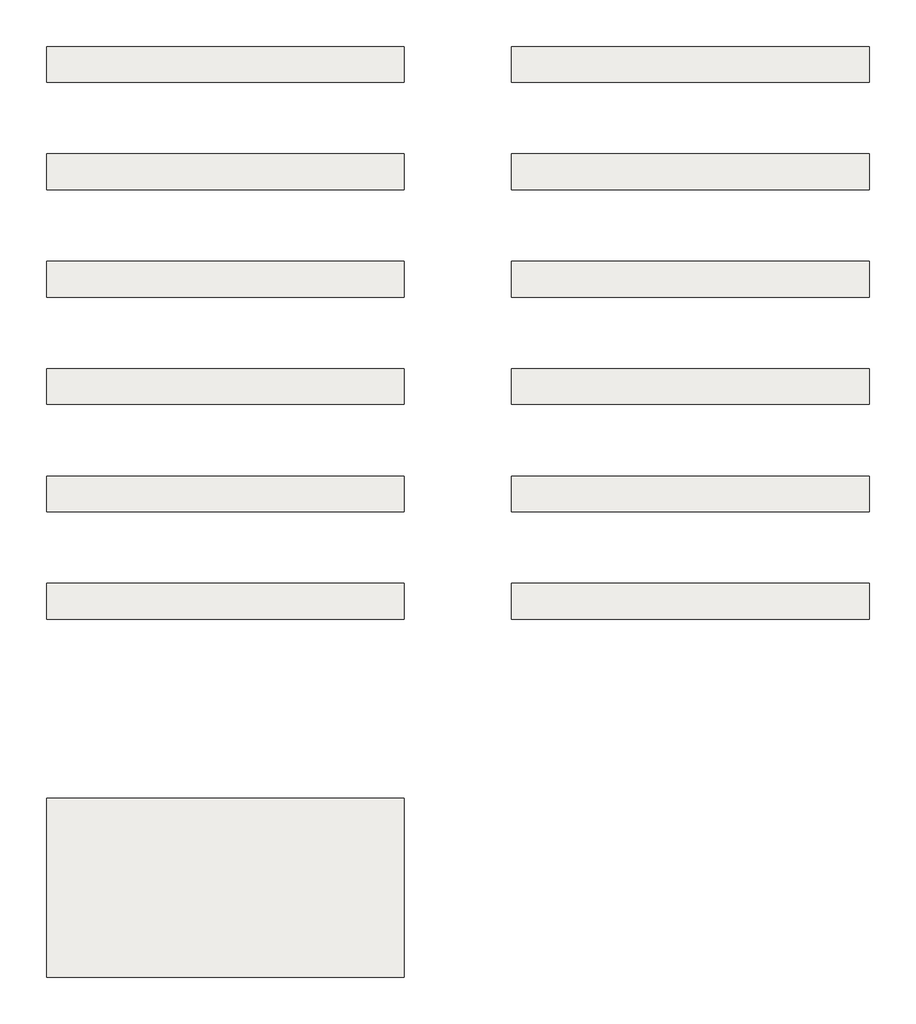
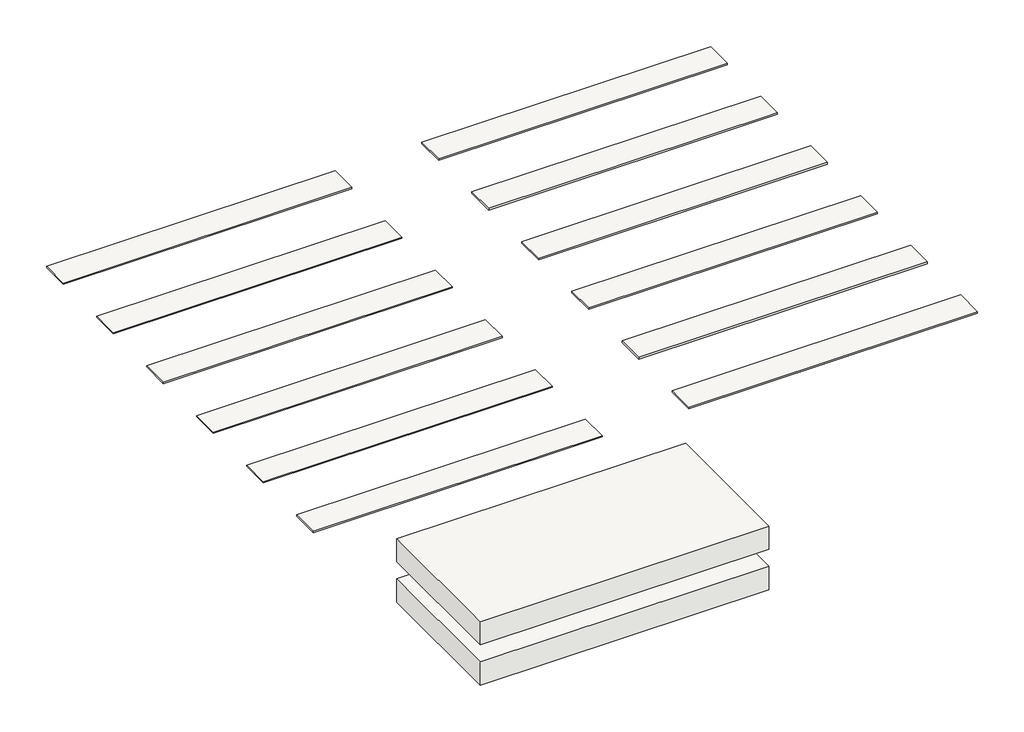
# One storey: 14 coverings.
"""IFC4 building model written with IfcOpenShell, lengths in millimetres."""

from ifc_helpers import new_model, si_unit, frame, origin, place, context, project, spatial, polyline, outline, extrude, element, save

model = new_model("IFC4")

# Units and contexts
model_context = context("Model", 3, world=origin())
ifc_project = project(units=[si_unit("LENGTHUNIT", "METRE", prefix="MILLI")], contexts=[model_context])

# Site, building, storey
site = spatial("IfcSite", under=ifc_project)
building = spatial("IfcBuilding", under=site)
storey = spatial("IfcBuildingStorey", under=building, Name="Sika® Ucrete® 210 CL en sustrato", Elevation=0.0)

# Coverings
placement = place(None, origin())
element("IfcCovering", 1, ObjectType="Sika® Ucrete® 210 CL 6 mm en sustrato", at=placement, inside=storey, context=model_context, shape_type="SweptSolid", body=[
    extrude(outline(polyline([(-2124.6599593, 7606.5727775), (-2124.6599593, 7106.5727775), (-3124.6599593, 7106.5727775), (-3124.6599593, 7606.5727775), (-2124.6599593, 7606.5727775)])), frame((0.0, 0.0, 44.0), z_axis=(0.0, 0.0, 1.0), x_axis=(1.0, 0.0, 0.0)), (0.0, 0.0, 1.0), 86.0),
])
element("IfcCovering", 2, ObjectType="Sika® Ucrete® 210 CL 4 mm (Beige)", at=placement, inside=storey, context=model_context, shape_type="SweptSolid", body=[
    extrude(outline(polyline([(-2124.6599593, 8207.6816614), (-2124.6599593, 8107.6816614), (-3124.6599593, 8107.6816614), (-3124.6599593, 8207.6816614), (-2124.6599593, 8207.6816614)])), frame((0.0, 0.0, -4.0), z_axis=(0.0, 0.0, 1.0), x_axis=(1.0, 0.0, 0.0)), (0.0, 0.0, 1.0), 4.0),
])
element("IfcCovering", 3, ObjectType="Sika® Ucrete® 210 CL 4 mm (Pebble Grey)", at=placement, inside=storey, context=model_context, shape_type="SweptSolid", body=[
    extrude(outline(polyline([(-2124.6599593, 8507.6816614), (-2124.6599593, 8407.6816614), (-3124.6599593, 8407.6816614), (-3124.6599593, 8507.6816614), (-2124.6599593, 8507.6816614)])), frame((0.0, 0.0, -4.0), z_axis=(0.0, 0.0, 1.0), x_axis=(1.0, 0.0, 0.0)), (0.0, 0.0, 1.0), 4.0),
])
element("IfcCovering", 4, ObjectType="Sika® Ucrete® 210 CL 4 mm (Traffic Grey)", at=placement, inside=storey, context=model_context, shape_type="SweptSolid", body=[
    extrude(outline(polyline([(-2124.6599593, 8807.6816614), (-2124.6599593, 8707.6816614), (-3124.6599593, 8707.6816614), (-3124.6599593, 8807.6816614), (-2124.6599593, 8807.6816614)])), frame((0.0, 0.0, -4.0), z_axis=(0.0, 0.0, 1.0), x_axis=(1.0, 0.0, 0.0)), (0.0, 0.0, 1.0), 4.0),
])
element("IfcCovering", 5, ObjectType="Sika® Ucrete® 210 CL 4 mm (Grass Green)", at=placement, inside=storey, context=model_context, shape_type="SweptSolid", body=[
    extrude(outline(polyline([(-2124.6599593, 9107.6816614), (-2124.6599593, 9007.6816614), (-3124.6599593, 9007.6816614), (-3124.6599593, 9107.6816614), (-2124.6599593, 9107.6816614)])), frame((0.0, 0.0, -4.0), z_axis=(0.0, 0.0, 1.0), x_axis=(1.0, 0.0, 0.0)), (0.0, 0.0, 1.0), 4.0),
])
element("IfcCovering", 6, ObjectType="Sika® Ucrete® 210 CL 4 mm (Navy Blue)", at=placement, inside=storey, context=model_context, shape_type="SweptSolid", body=[
    extrude(outline(polyline([(-2124.6599593, 9707.6816614), (-2124.6599593, 9607.6816614), (-3124.6599593, 9607.6816614), (-3124.6599593, 9707.6816614), (-2124.6599593, 9707.6816614)])), frame((0.0, 0.0, -4.0), z_axis=(0.0, 0.0, 1.0), x_axis=(1.0, 0.0, 0.0)), (0.0, 0.0, 1.0), 4.0),
])
element("IfcCovering", 7, ObjectType="Sika® Ucrete® 210 CL 4 mm (Red)", at=placement, inside=storey, context=model_context, shape_type="SweptSolid", body=[
    extrude(outline(polyline([(-2124.6599593, 9407.6816614), (-2124.6599593, 9307.6816614), (-3124.6599593, 9307.6816614), (-3124.6599593, 9407.6816614), (-2124.6599593, 9407.6816614)])), frame((0.0, 0.0, -4.0), z_axis=(0.0, 0.0, 1.0), x_axis=(1.0, 0.0, 0.0)), (0.0, 0.0, 1.0), 4.0),
])
element("IfcCovering", 8, ObjectType="Sika® Ucrete® 210 CL 4 mm en sustrato", at=placement, inside=storey, context=model_context, shape_type="SweptSolid", body=[
    extrude(outline(polyline([(-2124.6599593, 7606.5727775), (-2124.6599593, 7106.5727775), (-3124.6599593, 7106.5727775), (-3124.6599593, 7606.5727775), (-2124.6599593, 7606.5727775)])), frame((0.0, 0.0, 192.623235), z_axis=(0.0, 0.0, 1.0), x_axis=(1.0, 0.0, 0.0)), (0.0, 0.0, 1.0), 84.0),
])
element("IfcCovering", 9, ObjectType="Sika® Ucrete® 210 CL 6 mm (Beige)", at=placement, inside=storey, context=model_context, shape_type="SweptSolid", body=[
    extrude(outline(polyline([(-824.6599593, 8207.6816614), (-824.6599593, 8107.6816614), (-1824.6599593, 8107.6816614), (-1824.6599593, 8207.6816614), (-824.6599593, 8207.6816614)])), frame((0.0, 0.0, -6.0), z_axis=(0.0, 0.0, 1.0), x_axis=(1.0, 0.0, 0.0)), (0.0, 0.0, 1.0), 6.0),
])
element("IfcCovering", 10, ObjectType="Sika® Ucrete® 210 CL 6 mm (Pebble Grey)", at=placement, inside=storey, context=model_context, shape_type="SweptSolid", body=[
    extrude(outline(polyline([(-824.6599593, 8507.6816614), (-824.6599593, 8407.6816614), (-1824.6599593, 8407.6816614), (-1824.6599593, 8507.6816614), (-824.6599593, 8507.6816614)])), frame((0.0, 0.0, -6.0), z_axis=(0.0, 0.0, 1.0), x_axis=(1.0, 0.0, 0.0)), (0.0, 0.0, 1.0), 6.0),
])
element("IfcCovering", 11, ObjectType="Sika® Ucrete® 210 CL 6 mm (Traffic Grey)", at=placement, inside=storey, context=model_context, shape_type="SweptSolid", body=[
    extrude(outline(polyline([(-824.6599593, 8807.6816614), (-824.6599593, 8707.6816614), (-1824.6599593, 8707.6816614), (-1824.6599593, 8807.6816614), (-824.6599593, 8807.6816614)])), frame((0.0, 0.0, -6.0), z_axis=(0.0, 0.0, 1.0), x_axis=(1.0, 0.0, 0.0)), (0.0, 0.0, 1.0), 6.0),
])
element("IfcCovering", 12, ObjectType="Sika® Ucrete® 210 CL 6 mm (Grass Green)", at=placement, inside=storey, context=model_context, shape_type="SweptSolid", body=[
    extrude(outline(polyline([(-824.6599593, 9107.6816614), (-824.6599593, 9007.6816614), (-1824.6599593, 9007.6816614), (-1824.6599593, 9107.6816614), (-824.6599593, 9107.6816614)])), frame((0.0, 0.0, -6.0), z_axis=(0.0, 0.0, 1.0), x_axis=(1.0, 0.0, 0.0)), (0.0, 0.0, 1.0), 6.0),
])
element("IfcCovering", 13, ObjectType="Sika® Ucrete® 210 CL 6 mm (Navy Blue)", at=placement, inside=storey, context=model_context, shape_type="SweptSolid", body=[
    extrude(outline(polyline([(-824.6599593, 9707.6816614), (-824.6599593, 9607.6816614), (-1824.6599593, 9607.6816614), (-1824.6599593, 9707.6816614), (-824.6599593, 9707.6816614)])), frame((0.0, 0.0, -6.0), z_axis=(0.0, 0.0, 1.0), x_axis=(1.0, 0.0, 0.0)), (0.0, 0.0, 1.0), 6.0),
])
element("IfcCovering", 14, ObjectType="Sika® Ucrete® 210 CL 6 mm (Red)", at=placement, inside=storey, context=model_context, shape_type="SweptSolid", body=[
    extrude(outline(polyline([(-824.6599593, 9407.6816614), (-824.6599593, 9307.6816614), (-1824.6599593, 9307.6816614), (-1824.6599593, 9407.6816614), (-824.6599593, 9407.6816614)])), frame((0.0, 0.0, -6.0), z_axis=(0.0, 0.0, 1.0), x_axis=(1.0, 0.0, 0.0)), (0.0, 0.0, 1.0), 6.0),
])

save(model, "model.ifc")
